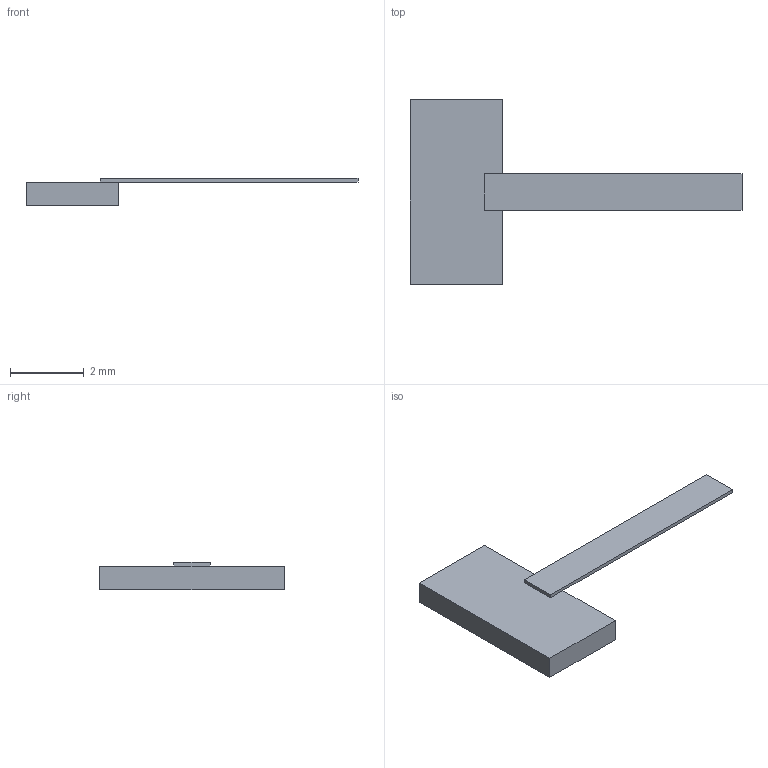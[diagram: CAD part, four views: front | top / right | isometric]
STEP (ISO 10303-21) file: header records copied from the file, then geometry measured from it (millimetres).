
FILE_DESCRIPTION(('STEP AP203'), '1');
FILE_NAME('P1-170-10-01', '', ('UNSPECIFIED'), ('UNSPECIFIED'), 'ASCON STEP Converter 1.6', 'ASCON Math Kernel', '');
FILE_SCHEMA(('CONFIG_CONTROL_DESIGN'));
Length unit declared in the file: millimetre
Bounding box: 9 x 5 x 0.73 mm (x, y, z)
Volume: 8.6 mm3; surface area: 49.1 mm2
Topology: 1 solids, 1 shells, 12 faces, 28 edges, 18 vertices
Faces by surface type: plane 12
Entity records: 476 total; most frequent: CARTESIAN_POINT 59, ORIENTED_EDGE 56, DIRECTION 54, EDGE_CURVE 28, LINE 28, VECTOR 28, VERTEX_POINT 18, AXIS2_PLACEMENT_3D 13
